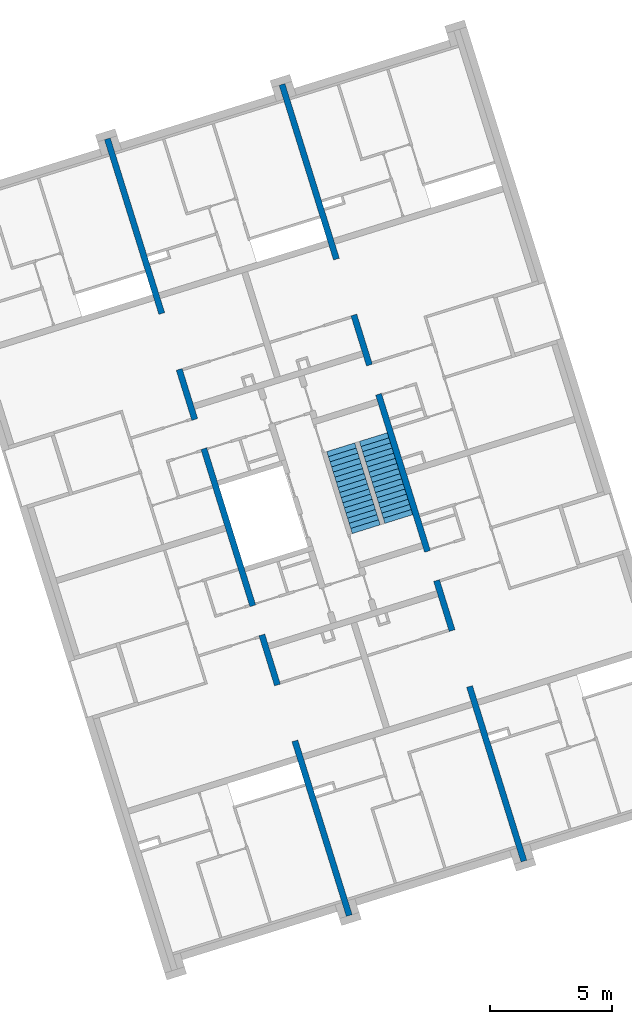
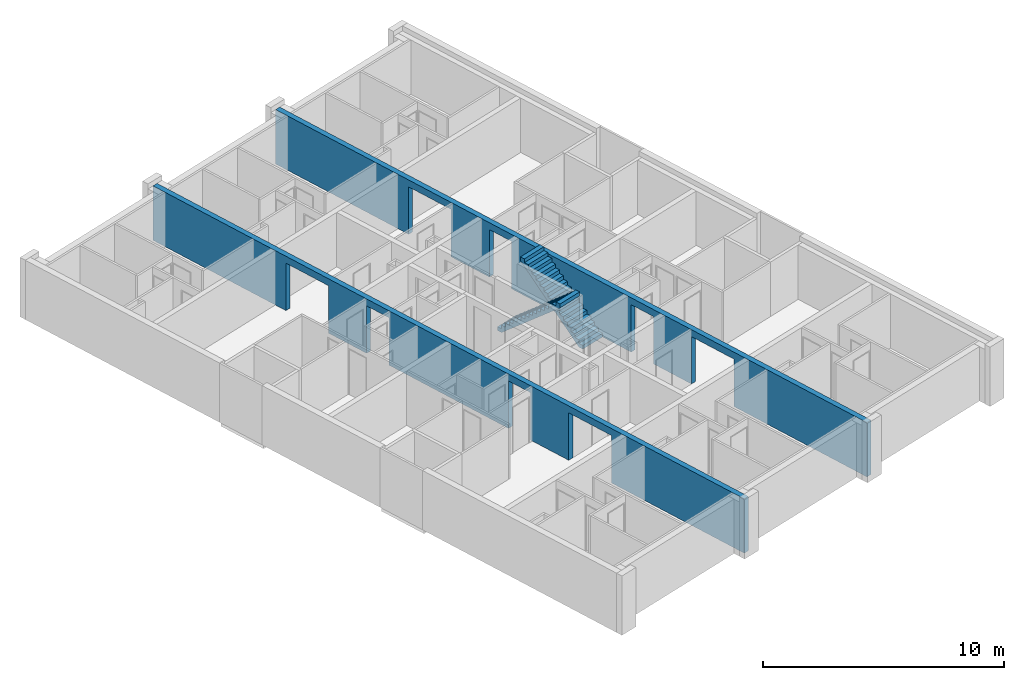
# One storey, part 12 of 12: 2 stair flights, 2 walls, 8 openings, 2 elements without a shape of their own.
"""IFC4 building model written with IfcOpenShell, lengths in metres."""

from ifc_helpers import new_model, entity, si_unit, converted_unit, direction, frame, origin, place, context, subcontext, project, spatial, indexed_curve, outline, extrude, polygons, material, type_object, element, aggregate, save


model = new_model("IFC4")

# Units and contexts
model_context = context("Model", 3, precision=1e-05, world=origin(), true_north=direction((6.12323399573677e-17, 1.0)))
body_context = subcontext(model_context, "Body", "Model", "MODEL_VIEW")
ifc_project = project(units=[si_unit("LENGTHUNIT", "METRE"), si_unit("AREAUNIT", "SQUARE_METRE"), si_unit("VOLUMEUNIT", "CUBIC_METRE"), converted_unit("PLANEANGLEUNIT", "DEGREE", entity("IfcPlaneAngleMeasure", 0.0174532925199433), si_unit("PLANEANGLEUNIT", "RADIAN"), dimensions=[0, 0, 0, 0, 0, 0, 0])], contexts=[model_context])

# Site, building, storey
site_placement = place(None, frame((13.1347999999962, 11.9886000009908, 0.0), z_axis=(0.0, 0.0, 1.0), x_axis=(0.954770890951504, 0.297342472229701, 0.0)))
site = spatial("IfcSite", under=ifc_project, at=site_placement, Name="Schiehaven", CompositionType="ELEMENT")
building_placement = place(site_placement, origin())
building = spatial("IfcBuilding", under=site, at=building_placement, Name="VORM huis", CompositionType="ELEMENT")
storey_placement = place(building_placement, frame((0.0, 0.0, 3.9)))
storey = spatial("IfcBuildingStorey", under=building, at=storey_placement, Name="01 eerste verdieping", CompositionType="ELEMENT", Elevation=3.9)

# Wall, openings
ifc_material_1 = material(Name="beton_gewapend_ihw", Category="Miscellaneous")
wall_type = type_object("IfcWallType", Name="Basic Wall:28_WA_skelet_wand 250mm_gen", PredefinedType="STANDARD")
wall_1_placement = place(storey_placement, frame((12.5, 0.374999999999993, 0.0), z_axis=(0.0, 0.0, 1.0), x_axis=(0.0, 1.0, 0.0)))
wall_1 = element("IfcWall", 1, at=wall_1_placement, inside=storey, type_object=wall_type, material=ifc_material_1, Name="Constructieve wand", ObjectType="Wand", PredefinedType="NOTDEFINED", context=body_context, shape_type="Tessellation", body=[
    polygons([(33.3500000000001, -0.125, -5.41433564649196e-16), (33.3500000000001, -0.125, 2.75), (21.95, -0.124999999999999, 2.75), (21.7, -0.124999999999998, 2.75), (11.65, -0.124999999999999, 2.75), (11.4, -0.124999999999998, 2.75), (2.70716782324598e-16, -0.125, 2.75), (2.70716782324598e-16, -0.125, -5.41433564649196e-16), (7.50000000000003, -0.124999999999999, -5.41433564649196e-16), (7.50000000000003, -0.124999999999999, 2.4), (9.90000000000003, -0.125, 2.4), (9.90000000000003, -0.125, -5.41433564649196e-16), (11.4, -0.124999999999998, 0.0), (11.65, -0.124999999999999, 0.0), (12.0499999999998, -0.124999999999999, -5.41433564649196e-16), (12.0499999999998, -0.124999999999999, 2.4), (13.2999999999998, -0.124999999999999, 2.4), (13.2999999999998, -0.124999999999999, -5.41433564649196e-16), (20.0500000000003, -0.125000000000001, -5.41433564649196e-16), (20.0500000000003, -0.124999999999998, 2.4), (21.3000000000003, -0.125000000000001, 2.4), (21.3000000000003, -0.125000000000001, -5.41433564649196e-16), (21.7, -0.124999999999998, 0.0), (21.95, -0.124999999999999, 0.0), (23.45, -0.125, -5.41433564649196e-16), (23.45, -0.125, 2.4), (25.85, -0.125, 2.4), (25.85, -0.125, -5.41433564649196e-16), (33.3500000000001, 0.125, 2.75), (33.3500000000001, 0.125, -5.41433564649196e-16), (25.85, 0.124999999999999, -5.41433564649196e-16), (25.85, 0.124999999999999, 2.4), (23.45, 0.124999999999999, 2.4), (23.45, 0.124999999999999, -5.41433564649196e-16), (21.3000000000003, 0.124999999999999, -5.41433564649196e-16), (21.3000000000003, 0.124999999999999, 2.4), (20.0500000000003, 0.125000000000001, 2.4), (20.0500000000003, 0.125000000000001, -5.41433564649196e-16), (13.2999999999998, 0.125, -5.41433564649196e-16), (13.2999999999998, 0.125, 2.4), (12.0499999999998, 0.125, 2.4), (12.0499999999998, 0.125, -5.41433564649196e-16), (9.90000000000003, 0.125, -5.41433564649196e-16), (9.90000000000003, 0.125, 2.4), (7.50000000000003, 0.125, 2.4), (7.50000000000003, 0.125, -5.41433564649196e-16), (6.76791955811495e-17, 0.125, -5.41433564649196e-16), (6.76791955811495e-17, 0.125, 2.75)], [[[1, 2, 3, 4, 5, 6, 7, 8, 9, 10, 11, 12, 13, 14, 15, 16, 17, 18, 19, 20, 21, 22, 23, 24, 25, 26, 27, 28]], [[29, 30, 31, 32, 33, 34, 35, 36, 37, 38, 39, 40, 41, 42, 43, 44, 45, 46, 47, 48]], [[8, 47, 46, 9]], [[2, 1, 30, 29]], [[7, 6, 5, 4, 3, 2, 29, 48]], [[8, 7, 48, 47]], [[41, 16, 15, 42]], [[17, 40, 39, 18]], [[16, 41, 40, 17]], [[10, 45, 44, 11]], [[45, 10, 9, 46]], [[11, 44, 43, 12]], [[20, 37, 36, 21]], [[37, 20, 19, 38]], [[21, 36, 35, 22]], [[26, 33, 32, 27]], [[33, 26, 25, 34]], [[27, 32, 31, 28]], [[18, 39, 38, 19]], [[22, 35, 34, 25, 24, 23]], [[30, 1, 28, 31]], [[42, 15, 14, 13, 12, 43]]], closed=True),
])
opening_1_placement = place(wall_1_placement, origin())
element("IfcOpeningElement", 2, at=opening_1_placement, cuts=wall_1, Name="Constructieve wand", PredefinedType="OPENING", context=body_context, shape_type="SweptSolid", body=[
    extrude(outline(indexed_curve([(-1.2, -0.625000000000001), (1.2, -0.625000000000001), (1.2, 0.625000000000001), (-1.2, 0.625000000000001), (-1.2, -0.625000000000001)], self_intersect=False)), frame((12.6749999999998, -0.125, 1.2), z_axis=(0.0, 1.0, 0.0), x_axis=(0.0, 0.0, -1.0)), (0.0, 0.0, 1.0), 0.249999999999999),
])
opening_2_placement = place(wall_1_placement, origin())
element("IfcOpeningElement", 3, at=opening_2_placement, cuts=wall_1, Name="Constructieve wand", PredefinedType="OPENING", context=body_context, shape_type="SweptSolid", body=[
    extrude(outline(indexed_curve([(-1.2, -1.2), (1.2, -1.2), (1.2, 1.2), (-1.2, 1.2), (-1.2, -1.2)], self_intersect=False)), frame((8.70000000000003, -0.125, 1.2), z_axis=(0.0, 1.0, 0.0), x_axis=(0.0, 0.0, -1.0)), (0.0, 0.0, 1.0), 0.249999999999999),
])
opening_3_placement = place(wall_1_placement, origin())
element("IfcOpeningElement", 4, at=opening_3_placement, cuts=wall_1, Name="Constructieve wand", PredefinedType="OPENING", context=body_context, shape_type="SweptSolid", body=[
    extrude(outline(indexed_curve([(-1.2, -0.625000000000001), (1.2, -0.625000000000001), (1.2, 0.625000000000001), (-1.2, 0.625000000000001), (-1.2, -0.625000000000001)], self_intersect=False)), frame((20.6750000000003, -0.124999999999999, 1.2), z_axis=(0.0, 1.0, 0.0), x_axis=(0.0, 0.0, -1.0)), (0.0, 0.0, 1.0), 0.249999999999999),
])
opening_4_placement = place(wall_1_placement, origin())
element("IfcOpeningElement", 5, at=opening_4_placement, cuts=wall_1, Name="Constructieve wand", PredefinedType="OPENING", context=body_context, shape_type="SweptSolid", body=[
    extrude(outline(indexed_curve([(-1.2, -1.2), (1.2, -1.2), (1.2, 1.2), (-1.2, 1.2), (-1.2, -1.2)], self_intersect=False)), frame((24.65, -0.125, 1.2), z_axis=(0.0, 1.0, 0.0), x_axis=(0.0, 0.0, -1.0)), (0.0, 0.0, 1.0), 0.249999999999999),
])

wall_2_placement = place(storey_placement, frame((20.0, 0.374999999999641, 0.0), z_axis=(0.0, 0.0, 1.0), x_axis=(0.0, 1.0, 0.0)))
wall_2 = element("IfcWall", 6, at=wall_2_placement, inside=storey, type_object=wall_type, material=ifc_material_1, Name="Constructieve wand", ObjectType="Wand", PredefinedType="NOTDEFINED", context=body_context, shape_type="Tessellation", body=[
    polygons([(33.3500000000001, -0.124999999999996, -5.41433564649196e-16), (33.3500000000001, -0.124999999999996, 2.75), (5.41433564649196e-16, -0.124999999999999, 2.75), (5.41433564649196e-16, -0.124999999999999, -5.41433564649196e-16), (7.50000000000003, -0.125, -5.41433564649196e-16), (7.50000000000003, -0.125000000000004, 2.4), (9.90000000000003, -0.125, 2.4), (9.90000000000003, -0.125, -5.41433564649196e-16), (12.0499999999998, -0.124999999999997, -5.41433564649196e-16), (12.0499999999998, -0.125000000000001, 2.4), (13.2999999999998, -0.124999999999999, 2.4), (13.2999999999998, -0.124999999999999, -5.41433564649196e-16), (20.0500000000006, -0.124999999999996, -5.41433564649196e-16), (20.0500000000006, -0.124999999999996, 2.4), (21.3000000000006, -0.124999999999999, 2.4), (21.3000000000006, -0.124999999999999, -5.41433564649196e-16), (23.4500000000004, -0.124999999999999, -5.41433564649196e-16), (23.4500000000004, -0.124999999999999, 2.4), (25.8500000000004, -0.125, 2.4), (25.8500000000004, -0.125, -5.41433564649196e-16), (33.3500000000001, 0.125000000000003, 2.75), (33.3500000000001, 0.125000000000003, -5.41433564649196e-16), (25.8500000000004, 0.125, -5.41433564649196e-16), (25.8500000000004, 0.125, 2.4), (23.4500000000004, 0.125, 2.4), (23.4500000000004, 0.125000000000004, -5.41433564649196e-16), (21.9500000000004, 0.125000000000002, 0.0), (21.7000000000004, 0.125000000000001, 0.0), (21.3000000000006, 0.125000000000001, -5.41433564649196e-16), (21.3000000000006, 0.125000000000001, 2.4), (20.0500000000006, 0.125000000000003, 2.4), (20.0500000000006, 0.125000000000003, -5.41433564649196e-16), (13.2999999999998, 0.125000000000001, -5.41433564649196e-16), (13.2999999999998, 0.125000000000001, 2.4), (12.0499999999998, 0.125000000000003, 2.4), (12.0499999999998, 0.125000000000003, -5.41433564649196e-16), (11.6500000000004, 0.125000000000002, 0.0), (11.4000000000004, 0.125000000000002, 0.0), (9.90000000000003, 0.124999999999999, -5.41433564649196e-16), (9.90000000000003, 0.124999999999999, 2.4), (7.50000000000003, 0.125, 2.4), (7.50000000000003, 0.125, -5.41433564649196e-16), (3.38395977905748e-16, 0.125, -5.41433564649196e-16), (3.38395977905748e-16, 0.125, 2.75), (11.4000000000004, 0.125000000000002, 2.75), (11.6500000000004, 0.125000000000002, 2.75), (21.7000000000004, 0.125000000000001, 2.75), (21.9500000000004, 0.125000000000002, 2.75)], [[[1, 2, 3, 4, 5, 6, 7, 8, 9, 10, 11, 12, 13, 14, 15, 16, 17, 18, 19, 20]], [[21, 22, 23, 24, 25, 26, 27, 28, 29, 30, 31, 32, 33, 34, 35, 36, 37, 38, 39, 40, 41, 42, 43, 44, 45, 46, 47, 48]], [[4, 43, 42, 5]], [[2, 1, 22, 21]], [[3, 2, 21, 48, 47, 46, 45, 44]], [[4, 3, 44, 43]], [[35, 10, 9, 36]], [[11, 34, 33, 12]], [[10, 35, 34, 11]], [[6, 41, 40, 7]], [[41, 6, 5, 42]], [[7, 40, 39, 8]], [[14, 31, 30, 15]], [[31, 14, 13, 32]], [[15, 30, 29, 16]], [[18, 25, 24, 19]], [[25, 18, 17, 26]], [[19, 24, 23, 20]], [[12, 33, 32, 13]], [[16, 29, 28, 27, 26, 17]], [[36, 9, 8, 39, 38, 37]], [[22, 1, 20, 23]]], closed=True),
])
opening_5_placement = place(wall_2_placement, origin())
element("IfcOpeningElement", 7, at=opening_5_placement, cuts=wall_2, Name="Constructieve wand", PredefinedType="OPENING", context=body_context, shape_type="SweptSolid", body=[
    extrude(outline(indexed_curve([(-1.2, -0.625000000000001), (1.2, -0.625000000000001), (1.2, 0.625000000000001), (-1.2, 0.625000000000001), (-1.2, -0.625000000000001)], self_intersect=False)), frame((12.6749999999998, -0.125000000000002, 1.2), z_axis=(0.0, 1.0, 0.0), x_axis=(0.0, 0.0, -1.0)), (0.0, 0.0, 1.0), 0.250000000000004),
])
opening_6_placement = place(wall_2_placement, origin())
element("IfcOpeningElement", 8, at=opening_6_placement, cuts=wall_2, Name="Constructieve wand", PredefinedType="OPENING", context=body_context, shape_type="SweptSolid", body=[
    extrude(outline(indexed_curve([(-1.2, -1.2), (1.2, -1.2), (1.2, 1.2), (-1.2, 1.2), (-1.2, -1.2)], self_intersect=False)), frame((8.70000000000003, -0.125000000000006, 1.2), z_axis=(0.0, 1.0, 0.0), x_axis=(0.0, 0.0, -1.0)), (0.0, 0.0, 1.0), 0.250000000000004),
])
opening_7_placement = place(wall_2_placement, origin())
element("IfcOpeningElement", 9, at=opening_7_placement, cuts=wall_2, Name="Constructieve wand", PredefinedType="OPENING", context=body_context, shape_type="SweptSolid", body=[
    extrude(outline(indexed_curve([(-1.2, -0.625000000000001), (1.2, -0.625000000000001), (1.2, 0.625000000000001), (-1.2, 0.625000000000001), (-1.2, -0.625000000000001)], self_intersect=False)), frame((20.6750000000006, -0.125000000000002, 1.2), z_axis=(0.0, 1.0, 0.0), x_axis=(0.0, 0.0, -1.0)), (0.0, 0.0, 1.0), 0.250000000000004),
])
opening_8_placement = place(wall_2_placement, origin())
element("IfcOpeningElement", 10, at=opening_8_placement, cuts=wall_2, Name="Constructieve wand", PredefinedType="OPENING", context=body_context, shape_type="SweptSolid", body=[
    extrude(outline(indexed_curve([(-1.2, -1.19999999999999), (1.2, -1.19999999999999), (1.2, 1.2), (-1.2, 1.2), (-1.2, -1.19999999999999)], self_intersect=False)), frame((24.6500000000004, -0.125000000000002, 1.2), z_axis=(0.0, 1.0, 0.0), x_axis=(0.0, 0.0, -1.0)), (0.0, 0.0, 1.0), 0.250000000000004),
])

# Stair, stair flight
stair_type = type_object("IfcStairType", Name="Trap", PredefinedType="STRAIGHT_RUN_STAIR")
stair_1_placement = place(storey_placement, origin())
stair_1 = element("IfcStair", 11, at=stair_1_placement, inside=storey, type_object=stair_type, Name="Hoofdtrap", ObjectType="Precast Stair:NLRS_24_STR_reguliere trap-woonfunctie-breedte 1200mm_gen", PredefinedType="STRAIGHT_RUN_STAIR")
ifc_material_2 = material(Name="beton_gewapend_prefab-element", Category="Miscellaneous")
stair_flight_type = type_object("IfcStairFlightType", Name="Monolithic Run:NLRS_24_STRR_trap-beton prefab-monolithisch-recht_gen_rsf", PredefinedType="STRAIGHT")
stair_flight_1_placement = place(stair_1_placement, frame((18.6750000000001, 15.29, 0.0)))
stair_flight_1 = element("IfcStairFlight", 12, at=stair_flight_1_placement, type_object=stair_flight_type, material=ifc_material_2, Name="Hoofdtrap Run 1", ObjectType="Monolithic Run:NLRS_24_STRR_trap-beton prefab-monolithisch-recht_gen_rsf", PredefinedType="STRAIGHT", context=body_context, shape_type="Tessellation", body=[
    polygons([(3.5527136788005e-15, 0.219999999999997, 0.1875), (0.0, -1.77635683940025e-15, 0.1875), (1.2, -1.77635683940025e-15, 0.1875), (1.2, 0.219999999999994, 0.1875), (3.5527136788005e-15, 0.220000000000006, -4.44089209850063e-16), (0.0, -1.77635683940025e-15, -4.44089209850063e-16), (1.2, -1.77635683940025e-15, -4.44089209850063e-16), (1.2, 0.219999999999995, -4.44089209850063e-16), (3.5527136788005e-15, 0.44, 0.375), (0.0, 0.219999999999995, 0.375), (1.2, 0.219999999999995, 0.375), (1.2, 0.439999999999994, 0.375), (3.5527136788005e-15, 0.44, 0.177912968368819), (3.5527136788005e-15, 0.231248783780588, 8.88178419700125e-16), (1.2, 0.231248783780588, 8.88178419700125e-16), (1.2, 0.439999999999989, 0.177912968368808), (3.5527136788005e-15, 0.659999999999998, 0.5625), (3.5527136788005e-15, 0.44, 0.5625), (1.20000000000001, 0.44, 0.5625), (1.20000000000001, 0.659999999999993, 0.5625), (7.105427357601e-15, 0.660000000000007, 0.365412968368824), (1.20000000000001, 0.659999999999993, 0.365412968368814), (3.5527136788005e-15, 0.880000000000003, 0.75), (3.5527136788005e-15, 0.659999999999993, 0.75), (1.20000000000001, 0.659999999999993, 0.75), (1.20000000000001, 0.879999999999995, 0.75), (7.105427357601e-15, 0.880000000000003, 0.55291296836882), (1.20000000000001, 0.879999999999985, 0.552912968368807), (7.105427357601e-15, 1.1, 0.9375), (7.105427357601e-15, 0.880000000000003, 0.9375), (1.20000000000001, 0.880000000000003, 0.9375), (1.20000000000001, 1.09999999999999, 0.9375), (7.105427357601e-15, 1.10000000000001, 0.740412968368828), (1.20000000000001, 1.1, 0.740412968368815), (7.105427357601e-15, 1.32, 1.125), (7.105427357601e-15, 1.09999999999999, 1.125), (1.20000000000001, 1.09999999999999, 1.125), (1.20000000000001, 1.31999999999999, 1.125), (7.105427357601e-15, 1.32, 0.92791296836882), (1.20000000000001, 1.31999999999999, 0.927912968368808), (1.06581410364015e-14, 1.54, 1.3125), (7.105427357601e-15, 1.32, 1.3125), (1.20000000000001, 1.32, 1.3125), (1.20000000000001, 1.54, 1.3125), (1.06581410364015e-14, 1.54000000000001, 1.11541296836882), (1.20000000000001, 1.54, 1.11541296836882), (1.06581410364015e-14, 1.76, 1.5), (7.105427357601e-15, 1.54, 1.5), (1.20000000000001, 1.54, 1.5), (1.20000000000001, 1.75999999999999, 1.5), (1.06581410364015e-14, 1.75999999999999, 1.30291296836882), (1.20000000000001, 1.75999999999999, 1.30291296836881), (1.06581410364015e-14, 1.98, 1.6875), (1.06581410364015e-14, 1.76, 1.6875), (1.20000000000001, 1.76, 1.6875), (1.20000000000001, 1.97999999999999, 1.6875), (1.06581410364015e-14, 1.98000000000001, 1.49041296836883), (1.20000000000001, 1.98, 1.49041296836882), (1.06581410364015e-14, 2.2, 1.875), (1.06581410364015e-14, 1.97999999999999, 1.875), (1.20000000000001, 1.97999999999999, 1.875), (1.20000000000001, 2.19999999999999, 1.875), (1.06581410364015e-14, 2.2, 1.67791296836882), (1.20000000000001, 2.19999999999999, 1.67791296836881), (1.4210854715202e-14, 2.42, 2.0625), (1.06581410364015e-14, 2.2, 2.0625), (1.20000000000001, 2.2, 2.0625), (1.20000000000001, 2.41999999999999, 2.0625), (1.06581410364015e-14, 2.42000000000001, 1.86541296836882), (1.20000000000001, 2.42, 1.86541296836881), (1.4210854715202e-14, 2.64, 2.25), (1.06581410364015e-14, 2.41999999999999, 2.25), (1.20000000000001, 2.41999999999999, 2.25), (1.20000000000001, 2.63999999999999, 2.25), (1.06581410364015e-14, 2.64, 2.05291296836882), (1.20000000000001, 2.63999999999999, 2.05291296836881), (1.4210854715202e-14, 2.86, 2.4375), (1.06581410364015e-14, 2.64, 2.4375), (1.20000000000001, 2.64, 2.4375), (1.20000000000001, 2.85999999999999, 2.4375), (1.4210854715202e-14, 2.86000000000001, 2.24041296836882), (1.20000000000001, 2.86, 2.24041296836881), (1.4210854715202e-14, 3.08, 2.625), (1.06581410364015e-14, 2.85999999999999, 2.625), (1.20000000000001, 2.85999999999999, 2.625), (1.20000000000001, 3.07999999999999, 2.625), (1.4210854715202e-14, 3.08, 2.42791296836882), (1.20000000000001, 3.07999999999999, 2.42791296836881), (1.77635683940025e-14, 3.3, 2.8125), (1.4210854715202e-14, 3.08, 2.8125), (1.20000000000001, 3.08, 2.8125), (1.20000000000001, 3.29999999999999, 2.8125), (1.77635683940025e-14, 3.30000000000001, 2.61541296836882), (1.20000000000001, 3.29999999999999, 2.61541296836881), (1.77635683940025e-14, 3.52, 3.0), (1.4210854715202e-14, 3.29999999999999, 3.0), (1.20000000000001, 3.29999999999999, 3.0), (1.20000000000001, 3.51999999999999, 3.0), (1.4210854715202e-14, 3.52, 2.80291296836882), (1.20000000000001, 3.51999999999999, 2.80291296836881)], [[[1, 2, 3, 4]], [[2, 1, 5, 6]], [[3, 2, 6, 7]], [[4, 3, 7, 8]], [[9, 10, 11, 12]], [[5, 1, 10, 9, 13, 14]], [[1, 4, 11, 10]], [[4, 8, 15, 16, 12, 11]], [[17, 18, 19, 20]], [[18, 17, 21, 13, 9]], [[9, 12, 19, 18]], [[20, 19, 12, 16, 22]], [[23, 24, 25, 26]], [[24, 23, 27, 21, 17]], [[17, 20, 25, 24]], [[26, 25, 20, 22, 28]], [[29, 30, 31, 32]], [[30, 29, 33, 27, 23]], [[23, 26, 31, 30]], [[32, 31, 26, 28, 34]], [[35, 36, 37, 38]], [[36, 35, 39, 33, 29]], [[29, 32, 37, 36]], [[38, 37, 32, 34, 40]], [[41, 42, 43, 44]], [[42, 41, 45, 39, 35]], [[35, 38, 43, 42]], [[44, 43, 38, 40, 46]], [[47, 48, 49, 50]], [[48, 47, 51, 45, 41]], [[41, 44, 49, 48]], [[50, 49, 44, 46, 52]], [[53, 54, 55, 56]], [[54, 53, 57, 51, 47]], [[47, 50, 55, 54]], [[56, 55, 50, 52, 58]], [[59, 60, 61, 62]], [[60, 59, 63, 57, 53]], [[53, 56, 61, 60]], [[62, 61, 56, 58, 64]], [[65, 66, 67, 68]], [[66, 65, 69, 63, 59]], [[59, 62, 67, 66]], [[68, 67, 62, 64, 70]], [[71, 72, 73, 74]], [[72, 71, 75, 69, 65]], [[65, 68, 73, 72]], [[74, 73, 68, 70, 76]], [[77, 78, 79, 80]], [[78, 77, 81, 75, 71]], [[71, 74, 79, 78]], [[80, 79, 74, 76, 82]], [[83, 84, 85, 86]], [[84, 83, 87, 81, 77]], [[77, 80, 85, 84]], [[86, 85, 80, 82, 88]], [[89, 90, 91, 92]], [[90, 89, 93, 87, 83]], [[83, 86, 91, 90]], [[92, 91, 86, 88, 94]], [[95, 96, 97, 98]], [[96, 95, 99, 93, 89]], [[89, 92, 97, 96]], [[98, 97, 92, 94, 100]], [[95, 98, 100, 99]], [[6, 5, 14, 15, 8, 7]], [[15, 14, 13, 21, 27, 33, 39, 45, 51, 57, 63, 69, 75, 81, 87, 93, 99, 100, 94, 88, 82, 76, 70, 64, 58, 52, 46, 40, 34, 28, 22, 16]]], closed=True),
])
aggregate(stair_1, [stair_flight_1])

stair_2_placement = place(storey_placement, origin())
stair_2 = element("IfcStair", 13, at=stair_2_placement, inside=storey, type_object=stair_type, Name="Hoofdtrap", ObjectType="Precast Stair:NLRS_24_STR_reguliere trap-woonfunctie-breedte 1200mm_gen", PredefinedType="STRAIGHT_RUN_STAIR")
stair_flight_2_placement = place(stair_2_placement, frame((17.2750000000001, 15.29, 0.0)))
stair_flight_2 = element("IfcStairFlight", 14, at=stair_flight_2_placement, type_object=stair_flight_type, material=ifc_material_2, Name="Hoofdtrap Run 1", ObjectType="Monolithic Run:NLRS_24_STRR_trap-beton prefab-monolithisch-recht_gen_rsf", PredefinedType="STRAIGHT", context=body_context, shape_type="Tessellation", body=[
    polygons([(1.20000000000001, 3.3, 0.1875), (1.20000000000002, 3.52, 0.1875), (1.4210854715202e-14, 3.52, 0.1875), (1.4210854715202e-14, 3.30000000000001, 0.1875), (1.20000000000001, 3.29999999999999, -4.44089209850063e-16), (1.20000000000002, 3.52, -4.44089209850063e-16), (1.4210854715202e-14, 3.52, -4.44089209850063e-16), (1.4210854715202e-14, 3.30000000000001, -4.44089209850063e-16), (1.20000000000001, 3.08, 0.375), (1.20000000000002, 3.30000000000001, 0.375), (1.4210854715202e-14, 3.30000000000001, 0.375), (1.4210854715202e-14, 3.08000000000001, 0.375), (1.20000000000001, 3.08000000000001, 0.177912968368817), (1.20000000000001, 3.28875121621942, -4.44089209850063e-16), (1.4210854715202e-14, 3.28875121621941, -4.44089209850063e-16), (1.4210854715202e-14, 3.08000000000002, 0.177912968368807), (1.20000000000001, 2.86, 0.5625), (1.20000000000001, 3.08, 0.5625), (1.06581410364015e-14, 3.08, 0.5625), (1.06581410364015e-14, 2.86000000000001, 0.5625), (1.20000000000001, 2.86, 0.365412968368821), (1.06581410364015e-14, 2.86000000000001, 0.365412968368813), (1.20000000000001, 2.64, 0.75), (1.20000000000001, 2.86000000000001, 0.75), (1.06581410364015e-14, 2.86000000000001, 0.75), (1.06581410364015e-14, 2.64000000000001, 0.75), (1.20000000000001, 2.64, 0.55291296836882), (1.06581410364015e-14, 2.64000000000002, 0.552912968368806), (1.20000000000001, 2.42, 0.9375), (1.20000000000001, 2.64, 0.9375), (1.06581410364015e-14, 2.64, 0.9375), (1.06581410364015e-14, 2.42000000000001, 0.9375), (1.20000000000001, 2.41999999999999, 0.740412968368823), (1.06581410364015e-14, 2.42000000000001, 0.740412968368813), (1.20000000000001, 2.2, 1.125), (1.20000000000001, 2.42000000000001, 1.125), (1.06581410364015e-14, 2.42000000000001, 1.125), (1.06581410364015e-14, 2.20000000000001, 1.125), (1.20000000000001, 2.2, 0.927912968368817), (7.105427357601e-15, 2.20000000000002, 0.927912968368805), (1.20000000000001, 1.98, 1.3125), (1.20000000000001, 2.2, 1.3125), (7.105427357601e-15, 2.2, 1.3125), (7.105427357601e-15, 1.98000000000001, 1.3125), (1.2, 1.97999999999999, 1.11541296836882), (7.105427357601e-15, 1.98000000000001, 1.11541296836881), (1.20000000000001, 1.76, 1.5), (1.20000000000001, 1.98000000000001, 1.5), (7.105427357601e-15, 1.98000000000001, 1.5), (7.105427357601e-15, 1.76000000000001, 1.5), (1.2, 1.76, 1.30291296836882), (7.105427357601e-15, 1.76000000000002, 1.30291296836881), (1.2, 1.54, 1.6875), (1.2, 1.76, 1.6875), (7.105427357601e-15, 1.76, 1.6875), (7.105427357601e-15, 1.54000000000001, 1.6875), (1.2, 1.54, 1.49041296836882), (7.105427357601e-15, 1.54000000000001, 1.49041296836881), (1.2, 1.32, 1.875), (1.2, 1.54000000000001, 1.875), (7.105427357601e-15, 1.54000000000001, 1.875), (7.105427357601e-15, 1.32000000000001, 1.875), (1.2, 1.32, 1.67791296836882), (7.105427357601e-15, 1.32000000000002, 1.67791296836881), (1.2, 1.1, 2.0625), (1.2, 1.32, 2.0625), (3.5527136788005e-15, 1.32, 2.0625), (3.5527136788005e-15, 1.10000000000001, 2.0625), (1.2, 1.1, 1.86541296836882), (3.5527136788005e-15, 1.10000000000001, 1.86541296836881), (1.2, 0.880000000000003, 2.25), (1.2, 1.10000000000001, 2.25), (3.5527136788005e-15, 1.10000000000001, 2.25), (3.5527136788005e-15, 0.88000000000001, 2.25), (1.2, 0.880000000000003, 2.05291296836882), (3.5527136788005e-15, 0.880000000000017, 2.05291296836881), (1.2, 0.660000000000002, 2.4375), (1.2, 0.880000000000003, 2.4375), (0.0, 0.880000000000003, 2.4375), (0.0, 0.660000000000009, 2.4375), (1.2, 0.659999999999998, 2.24041296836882), (0.0, 0.660000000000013, 2.24041296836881), (1.2, 0.440000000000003, 2.625), (1.2, 0.660000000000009, 2.625), (0.0, 0.660000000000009, 2.625), (0.0, 0.440000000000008, 2.625), (1.2, 0.440000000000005, 2.42791296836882), (0.0, 0.440000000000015, 2.42791296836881), (1.2, 0.220000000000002, 2.8125), (1.2, 0.440000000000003, 2.8125), (0.0, 0.440000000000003, 2.8125), (0.0, 0.22000000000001, 2.8125), (1.2, 0.219999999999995, 2.61541296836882), (0.0, 0.220000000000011, 2.61541296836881), (1.2, 0.0, 3.0), (1.2, 0.22000000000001, 3.0), (0.0, 0.22000000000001, 3.0), (0.0, 1.06581410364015e-14, 3.0), (1.2, 0.0, 2.80291296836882), (0.0, 1.06581410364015e-14, 2.80291296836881)], [[[1, 2, 3, 4]], [[2, 1, 5, 6]], [[3, 2, 6, 7]], [[4, 3, 7, 8]], [[9, 10, 11, 12]], [[5, 1, 10, 9, 13, 14]], [[1, 4, 11, 10]], [[4, 8, 15, 16, 12, 11]], [[17, 18, 19, 20]], [[18, 17, 21, 13, 9]], [[9, 12, 19, 18]], [[20, 19, 12, 16, 22]], [[23, 24, 25, 26]], [[24, 23, 27, 21, 17]], [[17, 20, 25, 24]], [[26, 25, 20, 22, 28]], [[29, 30, 31, 32]], [[30, 29, 33, 27, 23]], [[23, 26, 31, 30]], [[32, 31, 26, 28, 34]], [[35, 36, 37, 38]], [[36, 35, 39, 33, 29]], [[29, 32, 37, 36]], [[38, 37, 32, 34, 40]], [[41, 42, 43, 44]], [[42, 41, 45, 39, 35]], [[35, 38, 43, 42]], [[44, 43, 38, 40, 46]], [[47, 48, 49, 50]], [[48, 47, 51, 45, 41]], [[41, 44, 49, 48]], [[50, 49, 44, 46, 52]], [[53, 54, 55, 56]], [[54, 53, 57, 51, 47]], [[47, 50, 55, 54]], [[56, 55, 50, 52, 58]], [[59, 60, 61, 62]], [[60, 59, 63, 57, 53]], [[53, 56, 61, 60]], [[62, 61, 56, 58, 64]], [[65, 66, 67, 68]], [[66, 65, 69, 63, 59]], [[59, 62, 67, 66]], [[68, 67, 62, 64, 70]], [[71, 72, 73, 74]], [[72, 71, 75, 69, 65]], [[65, 68, 73, 72]], [[74, 73, 68, 70, 76]], [[77, 78, 79, 80]], [[78, 77, 81, 75, 71]], [[71, 74, 79, 78]], [[80, 79, 74, 76, 82]], [[83, 84, 85, 86]], [[84, 83, 87, 81, 77]], [[77, 80, 85, 84]], [[86, 85, 80, 82, 88]], [[89, 90, 91, 92]], [[90, 89, 93, 87, 83]], [[83, 86, 91, 90]], [[92, 91, 86, 88, 94]], [[95, 96, 97, 98]], [[96, 95, 99, 93, 89]], [[89, 92, 97, 96]], [[98, 97, 92, 94, 100]], [[95, 98, 100, 99]], [[6, 5, 14, 15, 8, 7]], [[15, 14, 13, 21, 27, 33, 39, 45, 51, 57, 63, 69, 75, 81, 87, 93, 99, 100, 94, 88, 82, 76, 70, 64, 58, 52, 46, 40, 34, 28, 22, 16]]], closed=True),
])
aggregate(stair_2, [stair_flight_2])

save(model, "model.ifc")
